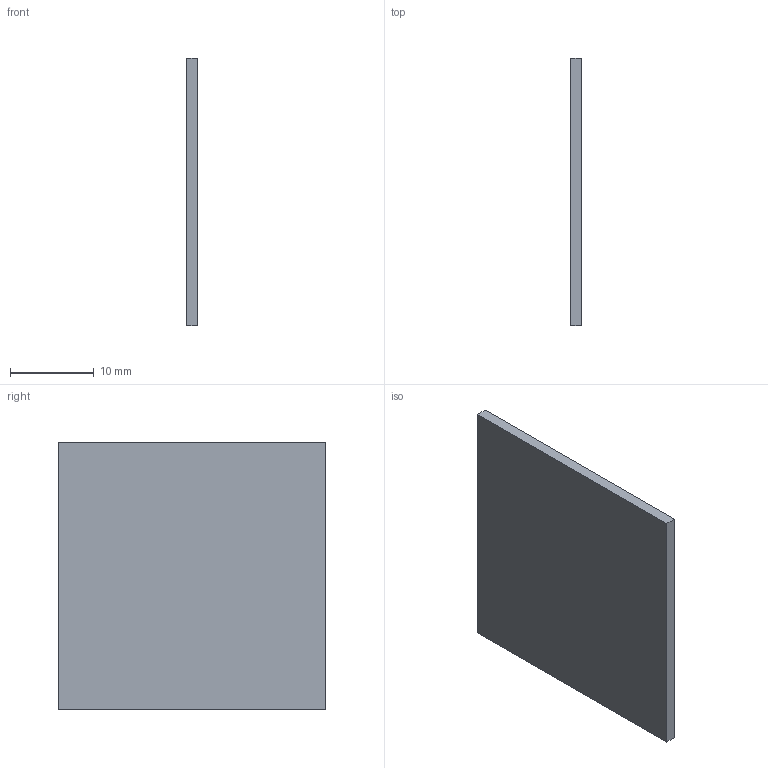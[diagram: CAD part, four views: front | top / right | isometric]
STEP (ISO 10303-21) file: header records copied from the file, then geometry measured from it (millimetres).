
FILE_DESCRIPTION (( 'STEP AP214' ), '1' );
FILE_NAME ('Abdeckkappe_Firmenschild.STEP', '2010-10-11T06:36:52', ( 'grass' ), ( '' ), 'SwSTEP 2.0', 'SolidWorks 2010', '' );
FILE_SCHEMA (( 'AUTOMOTIVE_DESIGN' ));
Length unit declared in the file: millimetre
Products named in the file (1): Abdeckkappe_Firmenschild
Bounding box: 1.3 x 32 x 32 mm (x, y, z)
Volume: 1331.2 mm3; surface area: 2214.4 mm2
Topology: 1 solids, 1 shells, 6 faces, 12 edges, 8 vertices
Faces by surface type: plane 6
Entity records: 190 total; most frequent: CARTESIAN_POINT 27, DIRECTION 26, ORIENTED_EDGE 24, EDGE_CURVE 12, VECTOR 12, LINE 12, VERTEX_POINT 8, AXIS2_PLACEMENT_3D 7
